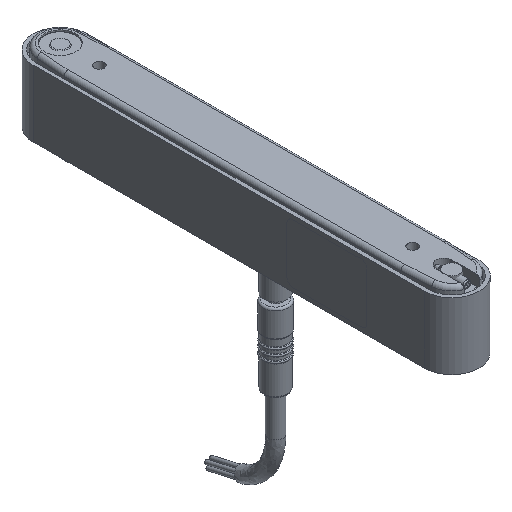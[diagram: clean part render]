
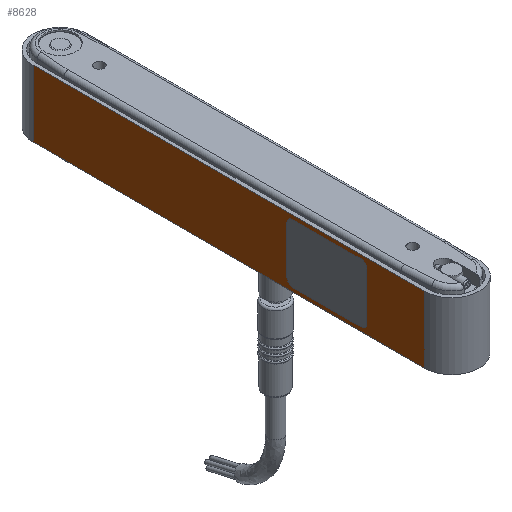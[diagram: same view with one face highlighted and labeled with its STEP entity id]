
A CAD part, isometric view. The second image highlights one B-rep face of the part: STEP entity #8628.
In plain terms, the highlighted planar face has unit normal (-1, 0, 0).
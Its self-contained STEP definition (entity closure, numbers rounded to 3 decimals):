
#357=FACE_BOUND('',#1347,.T.);
#464=PLANE('',#9261);
#840=FACE_OUTER_BOUND('',#1346,.T.);
#1346=EDGE_LOOP('',(#5861,#5862,#5863,#5864));
#1347=EDGE_LOOP('',(#5865,#5866,#5867,#5868,#5869,#5870,#5871,#5872));
#1855=LINE('',#12824,#2397);
#1859=LINE('',#12836,#2401);
#1863=LINE('',#12848,#2405);
#1867=LINE('',#12860,#2409);
#1877=LINE('',#12895,#2419);
#1880=LINE('',#12904,#2422);
#1883=LINE('',#12912,#2425);
#1884=LINE('',#12914,#2426);
#2397=VECTOR('',#10387,10.);
#2401=VECTOR('',#10399,10.);
#2405=VECTOR('',#10411,10.);
#2409=VECTOR('',#10423,10.);
#2419=VECTOR('',#10461,10.);
#2422=VECTOR('',#10470,10.);
#2425=VECTOR('',#10479,10.);
#2426=VECTOR('',#10482,10.);
#2975=CIRCLE('',#9231,1.5);
#2977=CIRCLE('',#9235,1.5);
#2979=CIRCLE('',#9239,1.5);
#2981=CIRCLE('',#9243,1.5);
#3488=VERTEX_POINT('',#12821);
#3489=VERTEX_POINT('',#12823);
#3491=VERTEX_POINT('',#12829);
#3493=VERTEX_POINT('',#12835);
#3495=VERTEX_POINT('',#12841);
#3497=VERTEX_POINT('',#12847);
#3499=VERTEX_POINT('',#12853);
#3501=VERTEX_POINT('',#12859);
#3510=VERTEX_POINT('',#12891);
#3512=VERTEX_POINT('',#12894);
#3514=VERTEX_POINT('',#12900);
#3517=VERTEX_POINT('',#12910);
#4376=EDGE_CURVE('',#3489,#3488,#1855,.T.);
#4379=EDGE_CURVE('',#3491,#3489,#2975,.T.);
#4382=EDGE_CURVE('',#3493,#3491,#1859,.T.);
#4385=EDGE_CURVE('',#3495,#3493,#2977,.T.);
#4388=EDGE_CURVE('',#3497,#3495,#1863,.T.);
#4391=EDGE_CURVE('',#3499,#3497,#2979,.T.);
#4394=EDGE_CURVE('',#3501,#3499,#1867,.T.);
#4397=EDGE_CURVE('',#3488,#3501,#2981,.T.);
#4411=EDGE_CURVE('',#3512,#3510,#1877,.T.);
#4416=EDGE_CURVE('',#3514,#3512,#1880,.T.);
#4420=EDGE_CURVE('',#3510,#3517,#1883,.T.);
#4421=EDGE_CURVE('',#3517,#3514,#1884,.T.);
#5861=ORIENTED_EDGE('',*,*,#4421,.T.);
#5862=ORIENTED_EDGE('',*,*,#4416,.T.);
#5863=ORIENTED_EDGE('',*,*,#4411,.T.);
#5864=ORIENTED_EDGE('',*,*,#4420,.T.);
#5865=ORIENTED_EDGE('',*,*,#4376,.T.);
#5866=ORIENTED_EDGE('',*,*,#4397,.T.);
#5867=ORIENTED_EDGE('',*,*,#4394,.T.);
#5868=ORIENTED_EDGE('',*,*,#4391,.T.);
#5869=ORIENTED_EDGE('',*,*,#4388,.T.);
#5870=ORIENTED_EDGE('',*,*,#4385,.T.);
#5871=ORIENTED_EDGE('',*,*,#4382,.T.);
#5872=ORIENTED_EDGE('',*,*,#4379,.T.);
#8628=ADVANCED_FACE('',(#840,#357),#464,.T.);
#9231=AXIS2_PLACEMENT_3D('',#12830,#10393,#10394);
#9235=AXIS2_PLACEMENT_3D('',#12842,#10405,#10406);
#9239=AXIS2_PLACEMENT_3D('',#12854,#10417,#10418);
#9243=AXIS2_PLACEMENT_3D('',#12864,#10429,#10430);
#9261=AXIS2_PLACEMENT_3D('',#12913,#10480,#10481);
#10387=DIRECTION('',(0.,1.,0.));
#10393=DIRECTION('center_axis',(1.,0.,0.));
#10394=DIRECTION('ref_axis',(0.,0.,
-1.));
#10399=DIRECTION('',(0.,0.,-1.));
#10405=DIRECTION('center_axis',(1.,0.,0.));
#10406=DIRECTION('ref_axis',(0.,-1.,0.));
#10411=DIRECTION('',(0.,-1.,0.));
#10417=DIRECTION('center_axis',(1.,0.,0.));
#10418=DIRECTION('ref_axis',(0.,0.,
1.));
#10423=DIRECTION('',(0.,0.,1.));
#10429=DIRECTION('center_axis',(1.,0.,0.));
#10430=DIRECTION('ref_axis',(0.,1.,0.));
#10461=DIRECTION('',(0.,-1.,0.));
#10470=DIRECTION('',(0.,0.,-1.));
#10479=DIRECTION('',(0.,0.,1.));
#10480=DIRECTION('center_axis',(-1.,0.,0.));
#10481=DIRECTION('ref_axis',(0.,0.,
1.));
#10482=DIRECTION('',(0.,1.,0.));
#12821=CARTESIAN_POINT('',(-6.9,33.7,-7.5));
#12823=CARTESIAN_POINT('',(-6.9,16.3,-7.5));
#12824=CARTESIAN_POINT('',(-6.9,16.85,-7.5));
#12829=CARTESIAN_POINT('',(-6.9,14.8,-6.));
#12830=CARTESIAN_POINT('Origin',(-6.9,16.3,-6.));
#12835=CARTESIAN_POINT('',(-6.9,14.8,6.));
#12836=CARTESIAN_POINT('',(-6.9,14.8,-3.));
#12841=CARTESIAN_POINT('',(-6.9,16.3,7.5));
#12842=CARTESIAN_POINT('Origin',(-6.9,16.3,6.));
#12847=CARTESIAN_POINT('',(-6.9,33.7,7.5));
#12848=CARTESIAN_POINT('',(-6.9,8.15,7.5));
#12853=CARTESIAN_POINT('',(-6.9,35.2,6.));
#12854=CARTESIAN_POINT('Origin',(-6.9,33.7,6.));
#12859=CARTESIAN_POINT('',(-6.9,35.2,-6.));
#12860=CARTESIAN_POINT('',(-6.9,35.2,3.));
#12864=CARTESIAN_POINT('Origin',(-6.9,33.7,-6.));
#12891=CARTESIAN_POINT('',(-6.9,0.,-8.5));
#12894=CARTESIAN_POINT('',(-6.9,100.,-8.5));
#12895=CARTESIAN_POINT('',(-6.9,100.,-8.5));
#12900=CARTESIAN_POINT('',(-6.9,100.,8.5));
#12904=CARTESIAN_POINT('',(-6.9,100.,0.));
#12910=CARTESIAN_POINT('',(-6.9,0.,8.5));
#12912=CARTESIAN_POINT('',(-6.9,0.,0.));
#12913=CARTESIAN_POINT('Origin',(-6.9,0.,0.));
#12914=CARTESIAN_POINT('',(-6.9,100.,8.5));
